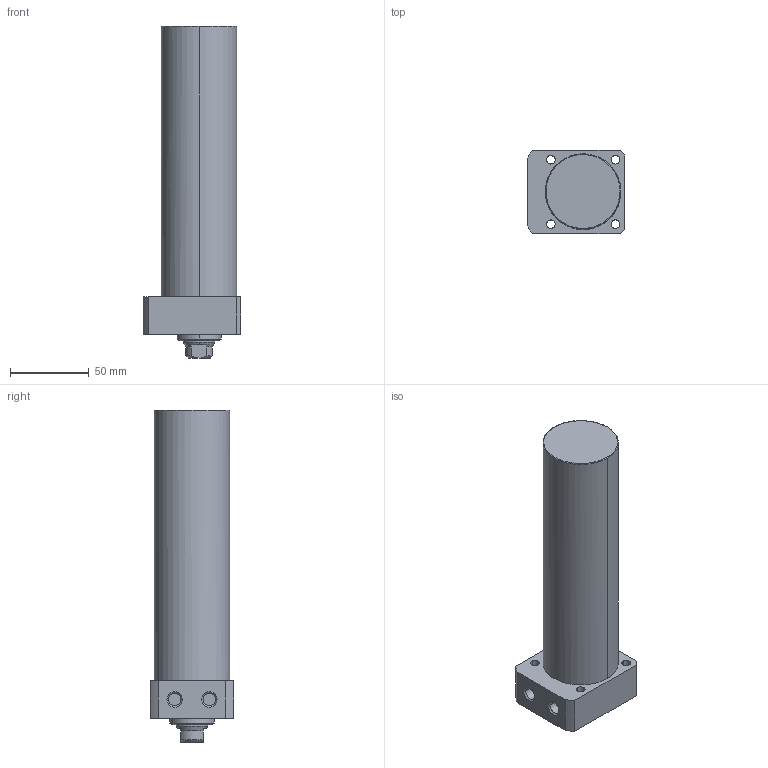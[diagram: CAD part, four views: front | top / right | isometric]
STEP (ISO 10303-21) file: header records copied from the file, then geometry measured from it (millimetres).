
FILE_DESCRIPTION((' '),'2;1');
FILE_NAME( 'TLLR-048CA-145.STEP.stp', '2025-10-24T16:34:32', (' '), ('--- Datakit www.datakit.com---'), ' Datakit CrossCadWare V2024.1 Dec 21 2023', 'Mastercam 2025', ' ');
FILE_SCHEMA(('AUTOMOTIVE_DESIGN { 1 0 10303 214 1 1 1 1 }'));
Length unit declared in the file: millimetre
Products named in the file (1): TLLR-048CA-145
Bounding box: 62 x 53 x 211 mm (x, y, z)
Volume: 389594 mm3; surface area: 41300.4 mm2
Topology: 1 solids, 1 shells, 63 faces, 177 edges, 122 vertices
Faces by surface type: cylinder 28, plane 19, cone 14, torus 2
Entity records: 2172 total; most frequent: CARTESIAN_POINT 409, DIRECTION 400, ORIENTED_EDGE 350, EDGE_CURVE 175, AXIS2_PLACEMENT_3D 169, VERTEX_POINT 122, CIRCLE 105, EDGE_LOOP 79
